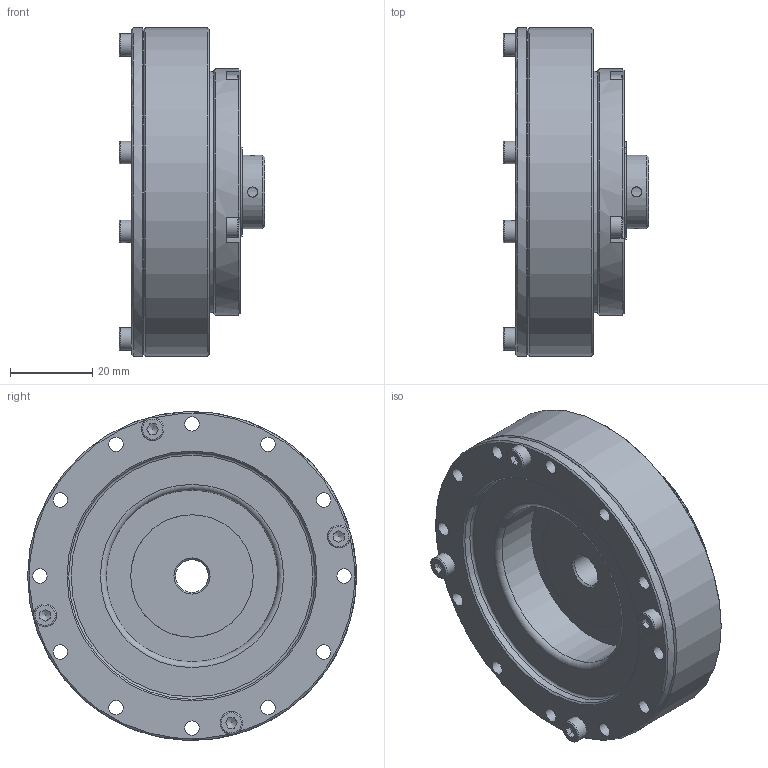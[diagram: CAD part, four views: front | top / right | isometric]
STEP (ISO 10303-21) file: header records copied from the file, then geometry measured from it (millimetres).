
FILE_DESCRIPTION(/* description */ (''),/* implementation_level */ '2;1');
FILE_NAME(/* name */ '\\Hiwin.tw\dfs\TB00F\研發課二組\\X2\6A5F5BC67D1A\X0\\1.設計\01-DT\DT-圖面\2.\X2\7D4454085716\X0\\模型\DGH-PO\DGH-17-PO\DGH-17-XX-PO_v2.stp',/* time_stamp */ '2024-09-27T14:15:31+08:00',/* author */ ('chiayu.chen'),/* organization */ (''),/* preprocessor_version */ 'ST-DEVELOPER v15.2',/* originating_system */ 'Autodesk Inventor 2014',/* authorisation */ '');
FILE_SCHEMA (('AUTOMOTIVE_DESIGN { 1 0 10303 214 3 1 1 }'));
Length unit declared in the file: centimetre
Products named in the file (1): AK000MH2
Bounding box: 35.5 x 80 x 80 mm (x, y, z)
Volume: 89608.3 mm3; surface area: 27588.5 mm2
Topology: 1 solids, 17 shells, 522 faces, 1285 edges, 819 vertices
Faces by surface type: cylinder 199, plane 177, torus 65, cone 58, sphere 23
Full cylindrical faces by diameter (mm): 1.7 x2, 2.459 x26, 3 x8, 3.5 x36, 5.5 x8, 8 x1, 17 x1, 18 x2, 24.5 x1, 27 x1, 29.8 x1, 32.46 x1, 39.66 x1, 41.72 x1, 41.77 x1, 60 x2, 68 x1, 80 x2
Entity records: 14016 total; most frequent: DIRECTION 2564, CARTESIAN_POINT 2377, ORIENTED_EDGE 1970, AXIS2_PLACEMENT_3D 1164, EDGE_CURVE 939, EDGE_LOOP 788, VERTEX_POINT 667, CIRCLE 641
